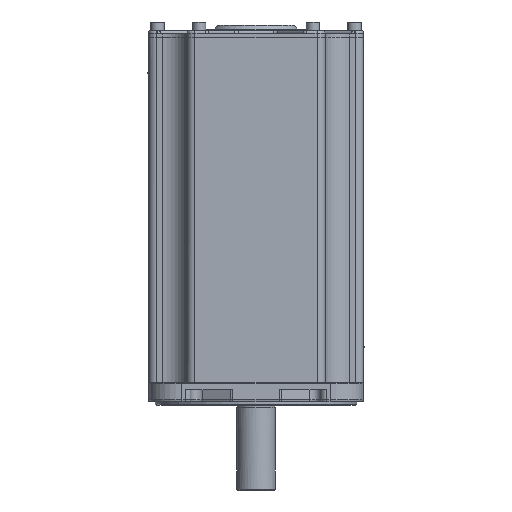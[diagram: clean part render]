
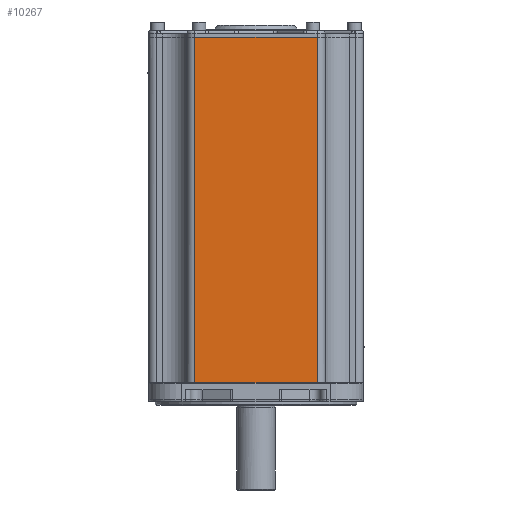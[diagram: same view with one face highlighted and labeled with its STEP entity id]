
A CAD part, front view. The second image highlights one B-rep face of the part: STEP entity #10267.
In plain terms, the highlighted planar face has unit normal (0, -1, 0).
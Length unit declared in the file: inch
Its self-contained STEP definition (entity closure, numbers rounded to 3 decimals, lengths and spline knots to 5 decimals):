
#10183=CARTESIAN_POINT('',(2.985,-5.25,17.35));
#10184=VERTEX_POINT('',#10183);
#10194=CARTESIAN_POINT('',(2.985,-5.25,0.45));
#10195=VERTEX_POINT('',#10194);
#10196=CARTESIAN_POINT('',(2.985,-5.25,17.35));
#10197=DIRECTION('',(0.0,0.0,-1.0));
#10198=VECTOR('',#10197,16.9);
#10199=LINE('',#10196,#10198);
#10200=EDGE_CURVE('',#10184,#10195,#10199,.T.);
#10224=CARTESIAN_POINT('',(-2.985,-5.25,0.45));
#10225=VERTEX_POINT('',#10224);
#10235=CARTESIAN_POINT('',(-2.985,-5.25,0.45));
#10236=DIRECTION('',(1.0,0.0,0.0));
#10237=VECTOR('',#10236,5.97);
#10238=LINE('',#10235,#10237);
#10239=EDGE_CURVE('',#10225,#10195,#10238,.T.);
#10244=CARTESIAN_POINT('',(3.375,-5.25,0.45));
#10245=DIRECTION('',(0.0,-1.0,0.0));
#10246=DIRECTION('',(0.0,0.0,-1.0));
#10247=AXIS2_PLACEMENT_3D('',#10244,#10245,#10246);
#10248=PLANE('',#10247);
#10249=CARTESIAN_POINT('',(-2.985,-5.25,17.35));
#10250=VERTEX_POINT('',#10249);
#10251=CARTESIAN_POINT('',(-2.985,-5.25,17.35));
#10252=DIRECTION('',(1.0,0.0,0.0));
#10253=VECTOR('',#10252,5.97);
#10254=LINE('',#10251,#10253);
#10255=EDGE_CURVE('',#10250,#10184,#10254,.T.);
#10256=ORIENTED_EDGE('',*,*,#10255,.F.);
#10257=CARTESIAN_POINT('',(-2.985,-5.25,0.45));
#10258=DIRECTION('',(0.0,0.0,1.0));
#10259=VECTOR('',#10258,16.9);
#10260=LINE('',#10257,#10259);
#10261=EDGE_CURVE('',#10225,#10250,#10260,.T.);
#10262=ORIENTED_EDGE('',*,*,#10261,.F.);
#10263=ORIENTED_EDGE('',*,*,#10239,.T.);
#10264=ORIENTED_EDGE('',*,*,#10200,.F.);
#10265=EDGE_LOOP('',(#10256,#10262,#10263,#10264));
#10266=FACE_OUTER_BOUND('',#10265,.T.);
#10267=ADVANCED_FACE('',(#10266),#10248,.T.);
